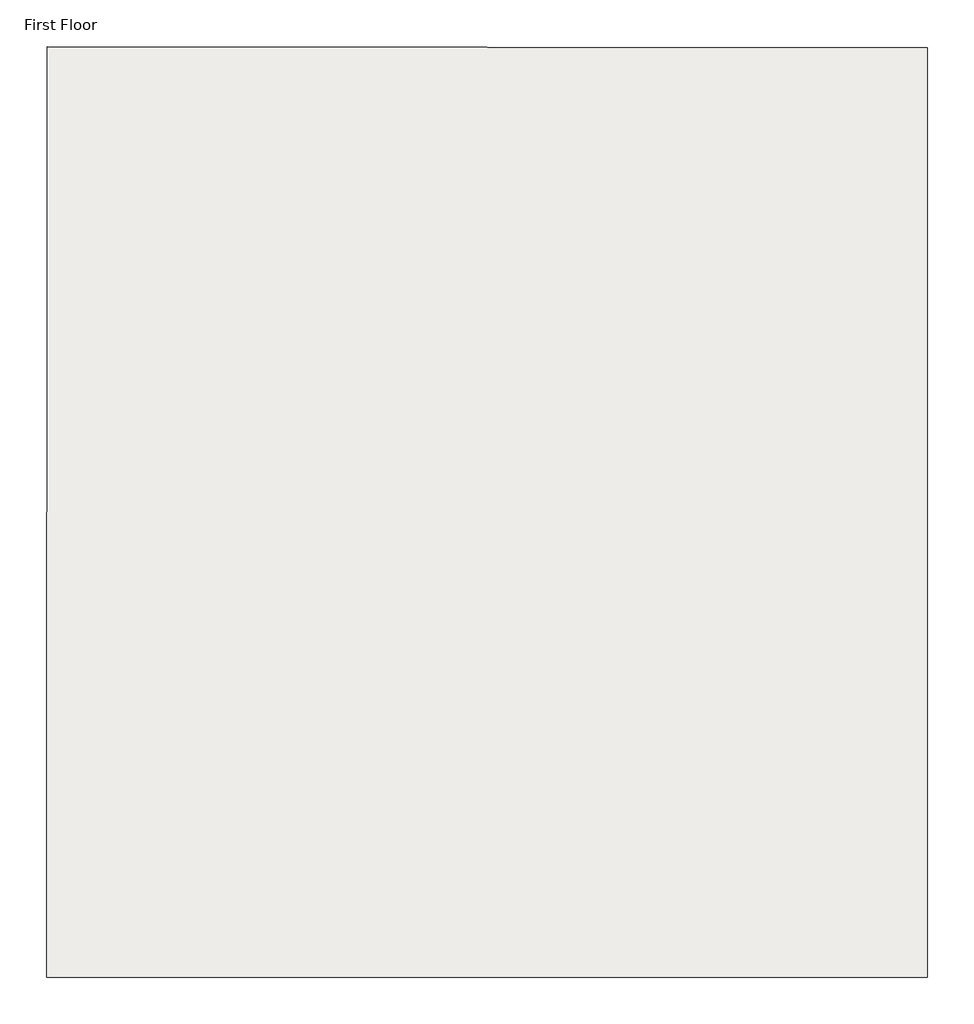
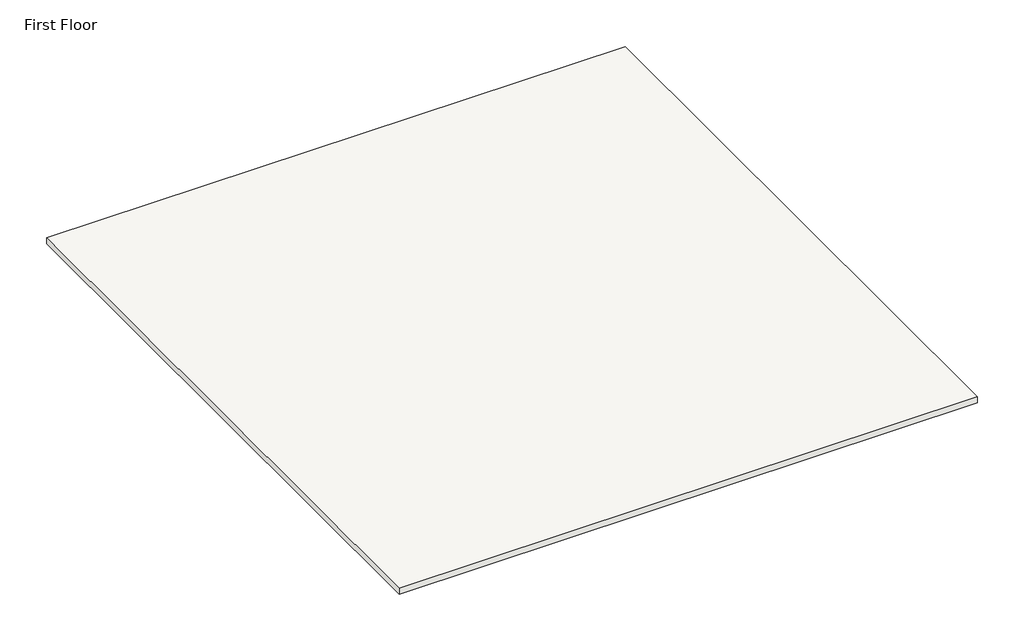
# One storey: 1 slab.
"""IFC4 building model written with IfcOpenShell, lengths in millimetres."""

from ifc_helpers import new_model, si_unit, frame, origin, place, context, project, spatial, polyline, outline, extrude, element, save

model = new_model("IFC4")

# Units and contexts
model_context = context("Model", 3, world=origin())
ifc_project = project(units=[si_unit("LENGTHUNIT", "METRE", prefix="MILLI")], contexts=[model_context])

# Site, building, storey
site = spatial("IfcSite", under=ifc_project)
building = spatial("IfcBuilding", under=site)
storey = spatial("IfcBuildingStorey", under=building, Name="First Floor", Elevation=3962.4)

# Slab
placement = place(None, origin())
element("IfcSlab", 1, ObjectType="SLA - 02", at=placement, inside=storey, context=model_context, shape_type="SweptSolid", body=[
    extrude(outline(polyline([(16589.659521, 19245.6371609), (16589.659521, 6901.2371609), (4888.4799697, 6900.2506726), (4895.1341594, 19260.3527227), (16589.659521, 19245.6371609)])), frame((0.0, 0.0, 3835.4), z_axis=(0.0, 0.0, 1.0), x_axis=(1.0, 0.0, 0.0)), (0.0, 0.0, 1.0), 127.0),
])

save(model, "model.ifc")
